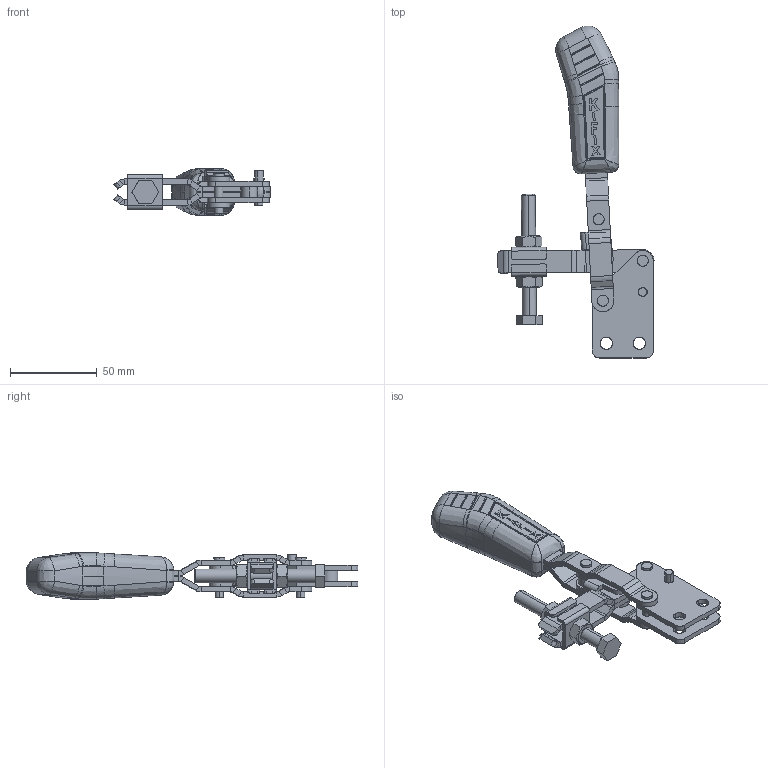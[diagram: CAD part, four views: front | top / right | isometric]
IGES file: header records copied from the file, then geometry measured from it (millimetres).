
Start section: SolidWorks IGES file using analytic representation for surfaces
Global section: file name: C:\Projetos\Grampos\KF-017\KF-017 RB\KF-017 RB.IGS; native system: SolidWorks 2013; preprocessor: SolidWorks 2013; author: Ricardo; date: 140728.150201; units: millimetre
Bounding box: 90.04 x 191.31 x 27.02 mm (x, y, z)
Surface area: 45758.9 mm2 (no closed solid volume)
Topology: 0 solids, 0 shells, 774 faces, 8163 edges, 8150 vertices
Faces by surface type: bspline 495, revolution 279
